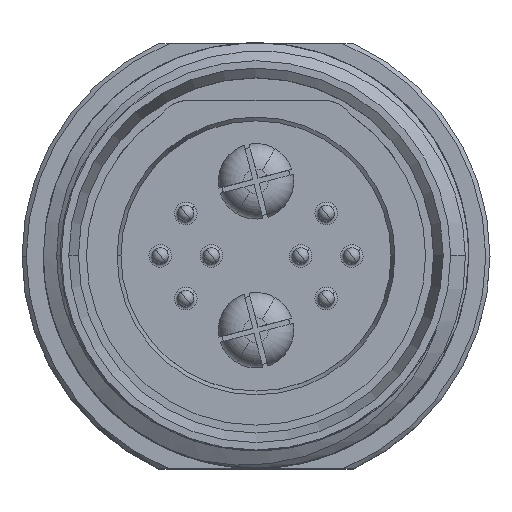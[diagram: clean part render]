
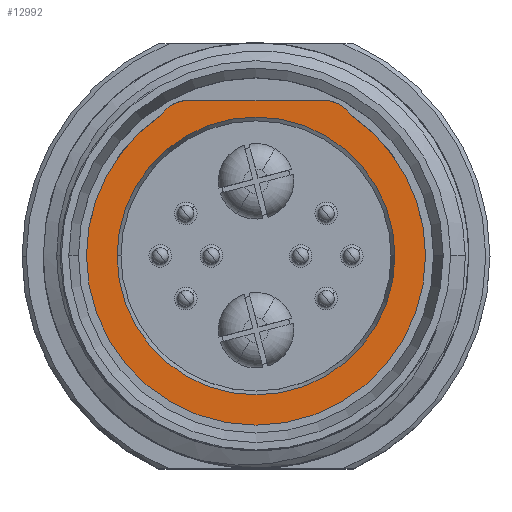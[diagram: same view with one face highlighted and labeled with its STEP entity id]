
A CAD part, top view. The second image highlights one B-rep face of the part: STEP entity #12992.
In plain terms, the highlighted planar face has unit normal (0, 0, 1).
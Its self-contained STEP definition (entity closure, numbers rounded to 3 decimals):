
#192 = EDGE_LOOP ( 'NONE', ( #10138, #2558 ) ) ;
#955 = VERTEX_POINT ( 'NONE', #13814 ) ;
#1274 = AXIS2_PLACEMENT_3D ( 'NONE', #11228, #5842, #8222 ) ;
#1466 = DIRECTION ( 'NONE',  ( 1., 0., 0. ) ) ;
#1491 = CIRCLE ( 'NONE', #1274, 6.53 ) ;
#1500 = EDGE_CURVE ( 'NONE', #12799, #955, #10658, .T. ) ;
#1813 = CARTESIAN_POINT ( 'NONE',  ( 6.53, 0., 0. ) ) ;
#2026 = DIRECTION ( 'NONE',  ( -1., 0., 0. ) ) ;
#2558 = ORIENTED_EDGE ( 'NONE', *, *, #6717, .T. ) ;
#4187 = CARTESIAN_POINT ( 'NONE',  ( 0., 0., 0. ) ) ;
#4666 = EDGE_CURVE ( 'NONE', #12601, #8104, #9733, .T. ) ;
#4848 = AXIS2_PLACEMENT_3D ( 'NONE', #10282, #7965, #11389 ) ;
#5063 = CIRCLE ( 'NONE', #4848, 8.22 ) ;
#5190 = PLANE ( 'NONE',  #9830 ) ;
#5397 = CARTESIAN_POINT ( 'NONE',  ( -8.22, 0., 0. ) ) ;
#5842 = DIRECTION ( 'NONE',  ( 0., 0., 1. ) ) ;
#6027 = ORIENTED_EDGE ( 'NONE', *, *, #1500, .F. ) ;
#6248 = FACE_BOUND ( 'NONE', #10034, .T. ) ;
#6711 = DIRECTION ( 'NONE',  ( 1., 0., 0. ) ) ;
#6717 = EDGE_CURVE ( 'NONE', #8104, #12601, #5063, .T. ) ;
#7080 = ORIENTED_EDGE ( 'NONE', *, *, #10908, .F. ) ;
#7965 = DIRECTION ( 'NONE',  ( 0., 0., 1. ) ) ;
#8104 = VERTEX_POINT ( 'NONE', #5397 ) ;
#8206 = AXIS2_PLACEMENT_3D ( 'NONE', #4187, #13131, #6711 ) ;
#8222 = DIRECTION ( 'NONE',  ( 1., 0., 0. ) ) ;
#8410 = CARTESIAN_POINT ( 'NONE',  ( 0., 8.22, 0. ) ) ;
#9048 = AXIS2_PLACEMENT_3D ( 'NONE', #11015, #11156, #1466 ) ;
#9733 = CIRCLE ( 'NONE', #9048, 8.22 ) ;
#9830 = AXIS2_PLACEMENT_3D ( 'NONE', #8410, #11620, #2026 ) ;
#10034 = EDGE_LOOP ( 'NONE', ( #6027, #7080 ) ) ;
#10138 = ORIENTED_EDGE ( 'NONE', *, *, #4666, .T. ) ;
#10282 = CARTESIAN_POINT ( 'NONE',  ( 0., 0., 0. ) ) ;
#10658 = CIRCLE ( 'NONE', #8206, 6.53 ) ;
#10908 = EDGE_CURVE ( 'NONE', #955, #12799, #1491, .T. ) ;
#11015 = CARTESIAN_POINT ( 'NONE',  ( 0., 0., 0. ) ) ;
#11156 = DIRECTION ( 'NONE',  ( 0., 0., 1. ) ) ;
#11228 = CARTESIAN_POINT ( 'NONE',  ( 0., 0., 0. ) ) ;
#11389 = DIRECTION ( 'NONE',  ( 1., 0., 0. ) ) ;
#11620 = DIRECTION ( 'NONE',  ( 0., 0., -1. ) ) ;
#11754 = FACE_OUTER_BOUND ( 'NONE', #192, .T. ) ;
#12322 = CARTESIAN_POINT ( 'NONE',  ( 8.22, 0., 0. ) ) ;
#12601 = VERTEX_POINT ( 'NONE', #12322 ) ;
#12799 = VERTEX_POINT ( 'NONE', #1813 ) ;
#12992 = ADVANCED_FACE ( 'NONE', ( #11754, #6248 ), #5190, .F. ) ;
#13131 = DIRECTION ( 'NONE',  ( 0., 0., 1. ) ) ;
#13814 = CARTESIAN_POINT ( 'NONE',  ( -6.53, 0., 0. ) ) ;
